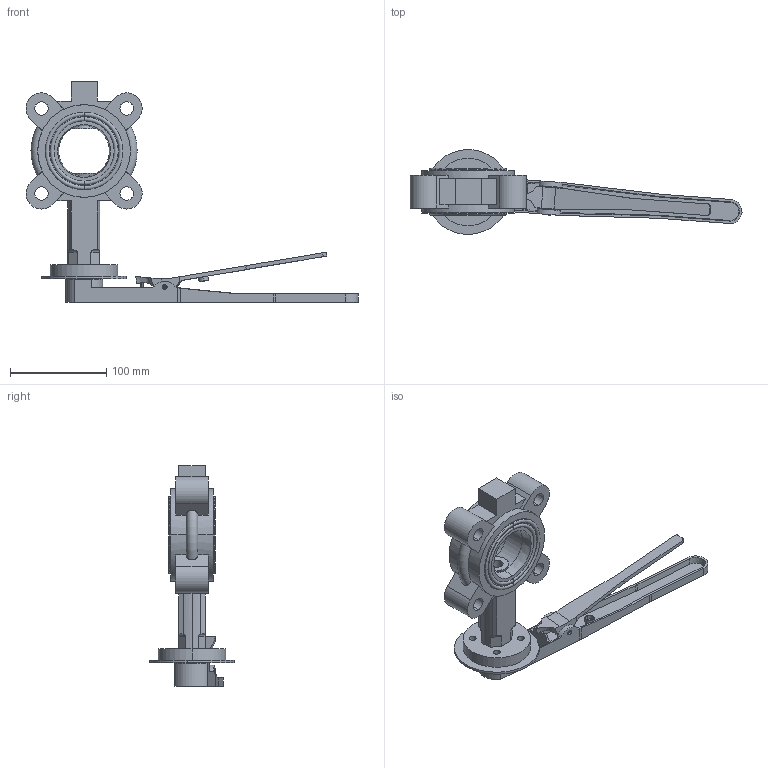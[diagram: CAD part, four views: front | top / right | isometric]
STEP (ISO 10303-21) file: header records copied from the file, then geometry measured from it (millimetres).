
FILE_DESCRIPTION (( 'STEP AP203' ), '1' );
FILE_NAME ('DN50凸耳2寸手柄.STEP', '2026-06-16T07:47:40', ( '微软用户' ), ( '微软中国' ), 'SwSTEP 2.0', 'SolidWorks 2024', '' );
FILE_SCHEMA (( 'CONFIG_CONTROL_DESIGN' ));
Length unit declared in the file: millimetre
Products named in the file (8): 50凸耳  3_step; 玛钢手柄本体9; spring pin slotted light duty1 gb_GB_PARALLEL_PINS_TYPE7 5X35; 玛钢手柄装配9; 玛钢手柄弹簧本体9; 3寸齿盘; 衬胶2寸; DN50凸耳2寸手柄
Assembly tree (7 placements, depth 3):
  DN50凸耳2寸手柄
    50凸耳  3_step
    衬胶2寸
    玛钢手柄装配9
      玛钢手柄本体9
      玛钢手柄弹簧本体9
      spring pin slotted light duty1 gb_GB_PARALLEL_PINS_TYPE7 5X35
    3寸齿盘
Bounding box: 344.14 x 87.85 x 229 mm (x, y, z)
Volume: 522745.4 mm3; surface area: 182202.4 mm2
Topology: 7 solids, 7 shells, 297 faces, 783 edges, 514 vertices
Faces by surface type: plane 136, cylinder 110, cone 31, torus 18, bspline 2
Entity records: 11121 total; most frequent: CARTESIAN_POINT 2693, DIRECTION 1633, ORIENTED_EDGE 1566, EDGE_CURVE 783, AXIS2_PLACEMENT_3D 610, VERTEX_POINT 514, LINE 413, VECTOR 413
